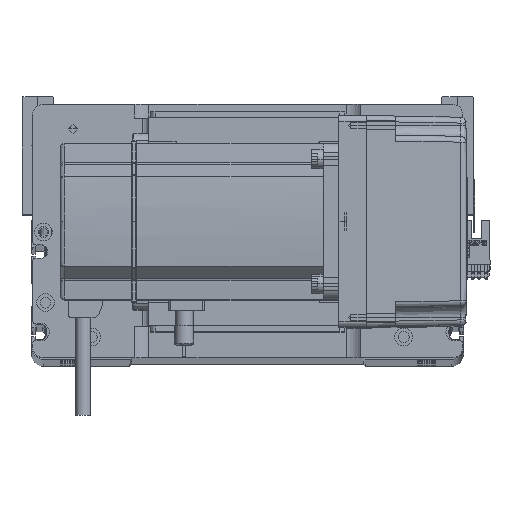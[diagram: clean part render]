
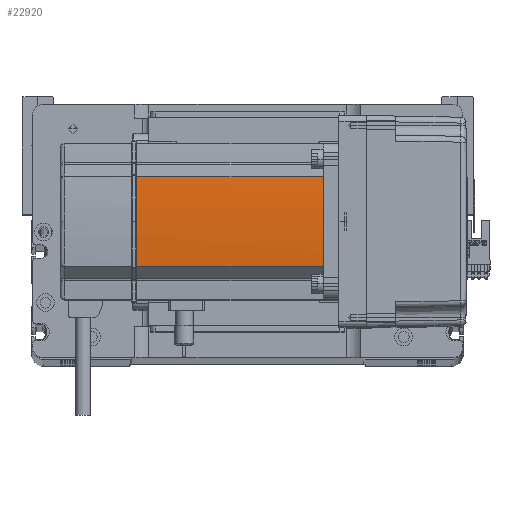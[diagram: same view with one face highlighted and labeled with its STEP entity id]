
A CAD part, top view. The second image highlights one B-rep face of the part: STEP entity #22920.
In plain terms, the highlighted cylindrical face has radius 270 mm (diameter 540 mm), a partial arc.
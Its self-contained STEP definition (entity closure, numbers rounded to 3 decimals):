
#2958 = DIRECTION ( 'NONE',  ( 0., 0., -1. ) ) ;
#3498 = VECTOR ( 'NONE', #4292, 1000. ) ;
#4292 = DIRECTION ( 'NONE',  ( 0., 0., 1. ) ) ;
#8380 = CARTESIAN_POINT ( 'NONE',  ( 230., 0., 0. ) ) ;
#8812 = AXIS2_PLACEMENT_3D ( 'NONE', #50708, #2958, #33242 ) ;
#8987 = ORIENTED_EDGE ( 'NONE', *, *, #23222, .T. ) ;
#11408 = DIRECTION ( 'NONE',  ( 0., 0., -1. ) ) ;
#11448 = CARTESIAN_POINT ( 'NONE',  ( -39.042, -22.724, 39. ) ) ;
#12006 = CARTESIAN_POINT ( 'NONE',  ( -40., 0., 134. ) ) ;
#15527 = VECTOR ( 'NONE', #51141, 1000. ) ;
#16993 = DIRECTION ( 'NONE',  ( 0., 0., 1. ) ) ;
#17588 = CARTESIAN_POINT ( 'NONE',  ( -39.042, 22.724, 0. ) ) ;
#18995 = VERTEX_POINT ( 'NONE', #48190 ) ;
#19637 = CARTESIAN_POINT ( 'NONE',  ( 230., 0., 134. ) ) ;
#20451 = AXIS2_PLACEMENT_3D ( 'NONE', #19637, #11408, #45900 ) ;
#22920 = ADVANCED_FACE ( 'NONE', ( #49583 ), #31398, .T. ) ;
#23222 = EDGE_CURVE ( 'NONE', #18995, #48657, #54888, .T. ) ;
#24793 = DIRECTION ( 'NONE',  ( 0., 0., -1. ) ) ;
#29396 = VERTEX_POINT ( 'NONE', #33001 ) ;
#29651 = CARTESIAN_POINT ( 'NONE',  ( 230., 0., 134. ) ) ;
#31398 = CYLINDRICAL_SURFACE ( 'NONE', #49813, 270. ) ;
#31900 = AXIS2_PLACEMENT_3D ( 'NONE', #29651, #24793, #33417 ) ;
#32521 = ORIENTED_EDGE ( 'NONE', *, *, #39723, .T. ) ;
#32835 = CIRCLE ( 'NONE', #8812, 270. ) ;
#33001 = CARTESIAN_POINT ( 'NONE',  ( -39.042, 22.724, 39. ) ) ;
#33242 = DIRECTION ( 'NONE',  ( 1., 0., 0. ) ) ;
#33417 = DIRECTION ( 'NONE',  ( 1., 0., 0. ) ) ;
#34851 = ORIENTED_EDGE ( 'NONE', *, *, #54532, .T. ) ;
#35030 = ORIENTED_EDGE ( 'NONE', *, *, #36314, .F. ) ;
#35158 = EDGE_CURVE ( 'NONE', #45429, #29396, #38983, .T. ) ;
#36314 = EDGE_CURVE ( 'NONE', #42843, #29396, #32835, .T. ) ;
#38983 = LINE ( 'NONE', #17588, #15527 ) ;
#39723 = EDGE_CURVE ( 'NONE', #48657, #45429, #46468, .T. ) ;
#42330 = DIRECTION ( 'NONE',  ( 1., 0., 0. ) ) ;
#42843 = VERTEX_POINT ( 'NONE', #11448 ) ;
#45429 = VERTEX_POINT ( 'NONE', #47311 ) ;
#45900 = DIRECTION ( 'NONE',  ( 1., 0., 0. ) ) ;
#46381 = LINE ( 'NONE', #47915, #3498 ) ;
#46468 = CIRCLE ( 'NONE', #20451, 270. ) ;
#47311 = CARTESIAN_POINT ( 'NONE',  ( -39.042, 22.724, 134. ) ) ;
#47915 = CARTESIAN_POINT ( 'NONE',  ( -39.042, -22.724, 0. ) ) ;
#48190 = CARTESIAN_POINT ( 'NONE',  ( -39.042, -22.724, 134. ) ) ;
#48657 = VERTEX_POINT ( 'NONE', #12006 ) ;
#49194 = ORIENTED_EDGE ( 'NONE', *, *, #35158, .T. ) ;
#49583 = FACE_OUTER_BOUND ( 'NONE', #54214, .T. ) ;
#49813 = AXIS2_PLACEMENT_3D ( 'NONE', #8380, #16993, #42330 ) ;
#50708 = CARTESIAN_POINT ( 'NONE',  ( 230., 0., 39. ) ) ;
#51141 = DIRECTION ( 'NONE',  ( 0., 0., -1. ) ) ;
#54214 = EDGE_LOOP ( 'NONE', ( #8987, #32521, #49194, #35030, #34851 ) ) ;
#54532 = EDGE_CURVE ( 'NONE', #42843, #18995, #46381, .T. ) ;
#54888 = CIRCLE ( 'NONE', #31900, 270. ) ;
